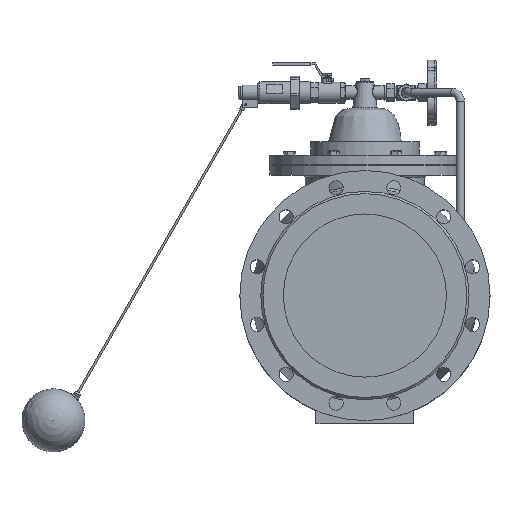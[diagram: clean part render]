
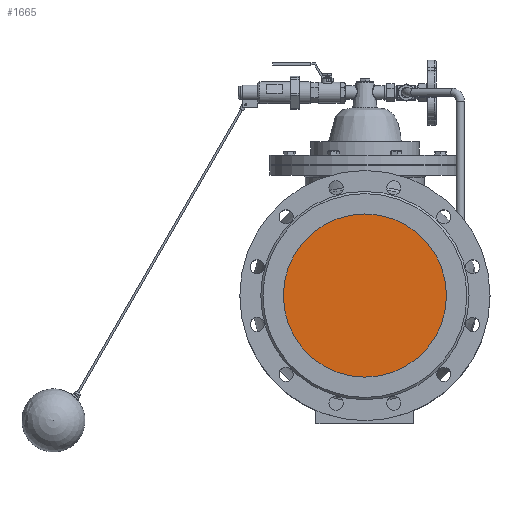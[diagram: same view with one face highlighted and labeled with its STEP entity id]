
A CAD part, top view. The second image highlights one B-rep face of the part: STEP entity #1665.
In plain terms, the highlighted planar face has unit normal (0, 0, 1).
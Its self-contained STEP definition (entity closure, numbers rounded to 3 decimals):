
#1665=ADVANCED_FACE('',(#7702),#7704,.T.);
#7702=FACE_BOUND('',#7703,.T.);
#7703=EDGE_LOOP('',(#11106));
#7704=PLANE('',#7705);
#7705=AXIS2_PLACEMENT_3D('',#7706,#7707,#7708);
#7706=CARTESIAN_POINT('',(0.,0.,290.));
#7707=DIRECTION('',(0.,0.,1.));
#7708=DIRECTION('',(0.,1.,0.));
#11106=ORIENTED_EDGE('',*,*,#12762,.F.);
#12762=EDGE_CURVE('',#15245,#15245,#15246,.T.);
#15245=VERTEX_POINT('',#32012);
#15246=CIRCLE('',#32013,150.);
#32012=CARTESIAN_POINT('',(0.,150.,290.));
#32013=AXIS2_PLACEMENT_3D('',#32014,#32015,#32016);
#32014=CARTESIAN_POINT('',(0.,0.,290.));
#32015=DIRECTION('',(0.,0.,-1.));
#32016=DIRECTION('',(0.,1.,0.));
